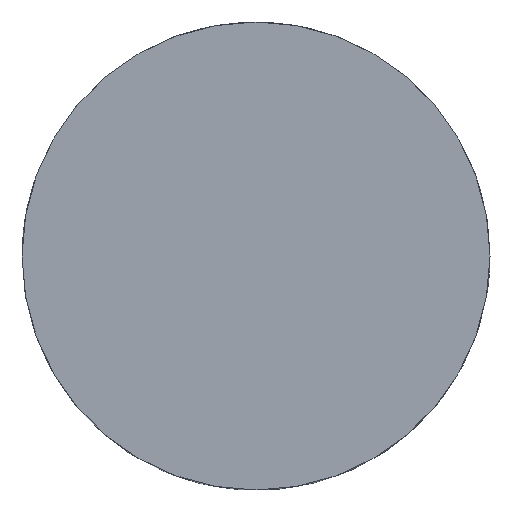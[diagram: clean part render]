
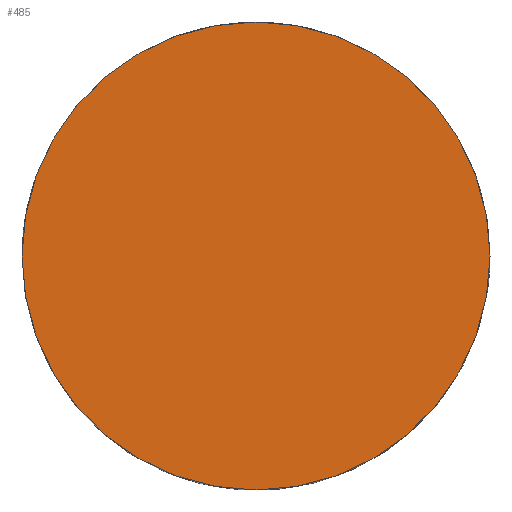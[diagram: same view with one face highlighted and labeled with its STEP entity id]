
A CAD part, top view. The second image highlights one B-rep face of the part: STEP entity #485.
In plain terms, the highlighted planar face has unit normal (0, 0, 1).
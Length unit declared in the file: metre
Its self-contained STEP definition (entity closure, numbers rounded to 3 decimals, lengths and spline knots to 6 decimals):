
#10 = DIRECTION ( 'NONE',  ( 1., 0., 0. ) ) ;
#94 = EDGE_CURVE ( 'NONE', #457, #723, #146, .T. ) ;
#105 = FACE_OUTER_BOUND ( 'NONE', #312, .T. ) ;
#110 = CARTESIAN_POINT ( 'NONE',  ( -0.014674, -0.014674, 0. ) ) ;
#138 = CIRCLE ( 'NONE', #619, 0.0145 ) ;
#141 = ORIENTED_EDGE ( 'NONE', *, *, #94, .T. ) ;
#146 = CIRCLE ( 'NONE', #672, 0.0145 ) ;
#153 = CARTESIAN_POINT ( 'NONE',  ( -0.0145, 0., 0. ) ) ;
#176 = DIRECTION ( 'NONE',  ( 0., 0., 1. ) ) ;
#295 = DIRECTION ( 'NONE',  ( 0., 0., 1. ) ) ;
#298 = EDGE_CURVE ( 'NONE', #723, #457, #138, .T. ) ;
#312 = EDGE_LOOP ( 'NONE', ( #141, #426 ) ) ;
#336 = DIRECTION ( 'NONE',  ( 1., 0., 0. ) ) ;
#347 = PLANE ( 'NONE',  #714 ) ;
#404 = CARTESIAN_POINT ( 'NONE',  ( 0.0145, 0., 0. ) ) ;
#426 = ORIENTED_EDGE ( 'NONE', *, *, #298, .T. ) ;
#432 = CARTESIAN_POINT ( 'NONE',  ( 0., 0., 0. ) ) ;
#457 = VERTEX_POINT ( 'NONE', #404 ) ;
#485 = ADVANCED_FACE ( 'NONE', ( #105 ), #347, .T. ) ;
#486 = DIRECTION ( 'NONE',  ( 0., 0., 1. ) ) ;
#538 = DIRECTION ( 'NONE',  ( 1., 0., 0. ) ) ;
#619 = AXIS2_PLACEMENT_3D ( 'NONE', #432, #486, #10 ) ;
#652 = CARTESIAN_POINT ( 'NONE',  ( 0., 0., 0. ) ) ;
#672 = AXIS2_PLACEMENT_3D ( 'NONE', #652, #295, #538 ) ;
#714 = AXIS2_PLACEMENT_3D ( 'NONE', #110, #176, #336 ) ;
#723 = VERTEX_POINT ( 'NONE', #153 ) ;
